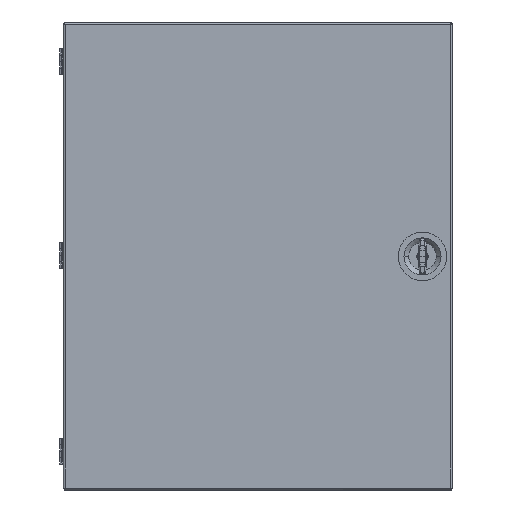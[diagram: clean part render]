
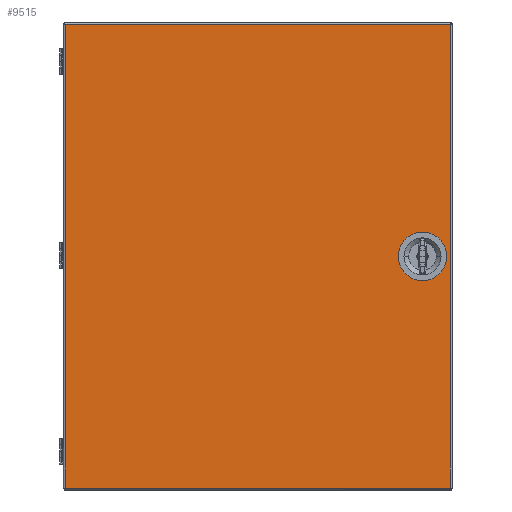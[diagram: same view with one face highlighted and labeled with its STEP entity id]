
A CAD part, top view. The second image highlights one B-rep face of the part: STEP entity #9515.
In plain terms, the highlighted planar face has unit normal (0, 0, 1).
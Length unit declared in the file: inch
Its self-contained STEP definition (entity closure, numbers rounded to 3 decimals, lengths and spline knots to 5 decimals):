
#3401 = FACE_BOUND ( 'NONE', #9560, .T. ) ;
#3402 = FACE_OUTER_BOUND ( 'NONE', #9516, .T. ) ;
#3407 = DIRECTION ( 'NONE',  ( -1., 0., 0. ) ) ;
#3408 = DIRECTION ( 'NONE',  ( 0., 0., -1. ) ) ;
#3414 = CARTESIAN_POINT ( 'NONE',  ( -15.015, -18.025, 0.072 ) ) ;
#3415 = AXIS2_PLACEMENT_3D ( 'NONE', #3414, #3408, #3407 ) ;
#3416 = PLANE ( 'NONE',  #3415 ) ;
#3418 = CARTESIAN_POINT ( 'NONE',  ( -14.863, 17.873, 0.072 ) ) ;
#5432 = DIRECTION ( 'NONE',  ( -1., 0., 0. ) ) ;
#5439 = DIRECTION ( 'NONE',  ( 0., 0., 1. ) ) ;
#5440 = CARTESIAN_POINT ( 'NONE',  ( 14.578, 0., 0.072 ) ) ;
#5442 = CARTESIAN_POINT ( 'NONE',  ( 12.703, 0., 0.072 ) ) ;
#5443 = AXIS2_PLACEMENT_3D ( 'NONE', #5442, #5439, #5432 ) ;
#5444 = CIRCLE ( 'NONE', #5443, 1.875 ) ;
#5484 = CARTESIAN_POINT ( 'NONE',  ( 10.828, 0., 0.072 ) ) ;
#5552 = CARTESIAN_POINT ( 'NONE',  ( -14.93593, -17.873, 0.072 ) ) ;
#5553 = LINE ( 'NONE', #5552, #5559 ) ;
#5558 = DIRECTION ( 'NONE',  ( 1., 0., 0. ) ) ;
#5559 = VECTOR ( 'NONE', #5558, 39.37008 ) ;
#5563 = DIRECTION ( 'NONE',  ( 0., -1., 0. ) ) ;
#5564 = VECTOR ( 'NONE', #5563, 39.37008 ) ;
#5565 = CARTESIAN_POINT ( 'NONE',  ( -14.863, 17.94593, 0.072 ) ) ;
#5569 = LINE ( 'NONE', #5565, #5564 ) ;
#5574 = CARTESIAN_POINT ( 'NONE',  ( -14.863, -17.873, 0.072 ) ) ;
#5593 = CARTESIAN_POINT ( 'NONE',  ( 14.863, 17.873, 0.072 ) ) ;
#5594 = DIRECTION ( 'NONE',  ( 0., 1., 0. ) ) ;
#5595 = VECTOR ( 'NONE', #5594, 39.37008 ) ;
#5620 = DIRECTION ( 'NONE',  ( -1., 0., 0. ) ) ;
#5621 = VECTOR ( 'NONE', #5620, 39.37008 ) ;
#5623 = DIRECTION ( 'NONE',  ( -1., 0., 0. ) ) ;
#5628 = CARTESIAN_POINT ( 'NONE',  ( 14.863, -17.94593, 0.072 ) ) ;
#5629 = LINE ( 'NONE', #5628, #5595 ) ;
#5635 = DIRECTION ( 'NONE',  ( 0., 0., 1. ) ) ;
#5636 = CARTESIAN_POINT ( 'NONE',  ( 12.703, 0., 0.072 ) ) ;
#5637 = AXIS2_PLACEMENT_3D ( 'NONE', #5636, #5635, #5623 ) ;
#5638 = CIRCLE ( 'NONE', #5637, 1.875 ) ;
#5639 = CARTESIAN_POINT ( 'NONE',  ( 14.93593, 17.873, 0.072 ) ) ;
#5640 = LINE ( 'NONE', #5639, #5621 ) ;
#5662 = CARTESIAN_POINT ( 'NONE',  ( 14.863, -17.873, 0.072 ) ) ;
#9515 = ADVANCED_FACE ( 'NONE', ( #3402, #3401 ), #3416, .F. ) ;
#9516 = EDGE_LOOP ( 'NONE', ( #9549, #9552, #9555, #9558 ) ) ;
#9517 = VERTEX_POINT ( 'NONE', #3418 ) ;
#9535 = VERTEX_POINT ( 'NONE', #5440 ) ;
#9537 = EDGE_CURVE ( 'NONE', #9535, #9538, #5444, .T. ) ;
#9538 = VERTEX_POINT ( 'NONE', #5484 ) ;
#9549 = ORIENTED_EDGE ( 'NONE', *, *, #9550, .T. ) ;
#9550 = EDGE_CURVE ( 'NONE', #9517, #9551, #5569, .T. ) ;
#9551 = VERTEX_POINT ( 'NONE', #5574 ) ;
#9552 = ORIENTED_EDGE ( 'NONE', *, *, #9553, .T. ) ;
#9553 = EDGE_CURVE ( 'NONE', #9551, #9554, #5553, .T. ) ;
#9554 = VERTEX_POINT ( 'NONE', #5662 ) ;
#9555 = ORIENTED_EDGE ( 'NONE', *, *, #9556, .T. ) ;
#9556 = EDGE_CURVE ( 'NONE', #9554, #9557, #5629, .T. ) ;
#9557 = VERTEX_POINT ( 'NONE', #5593 ) ;
#9558 = ORIENTED_EDGE ( 'NONE', *, *, #9559, .T. ) ;
#9559 = EDGE_CURVE ( 'NONE', #9557, #9517, #5640, .T. ) ;
#9560 = EDGE_LOOP ( 'NONE', ( #9561, #9564 ) ) ;
#9561 = ORIENTED_EDGE ( 'NONE', *, *, #9562, .F. ) ;
#9562 = EDGE_CURVE ( 'NONE', #9538, #9535, #5638, .T. ) ;
#9564 = ORIENTED_EDGE ( 'NONE', *, *, #9537, .F. ) ;
